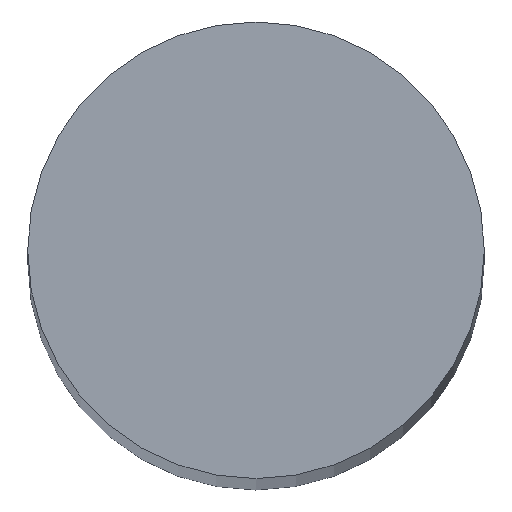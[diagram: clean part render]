
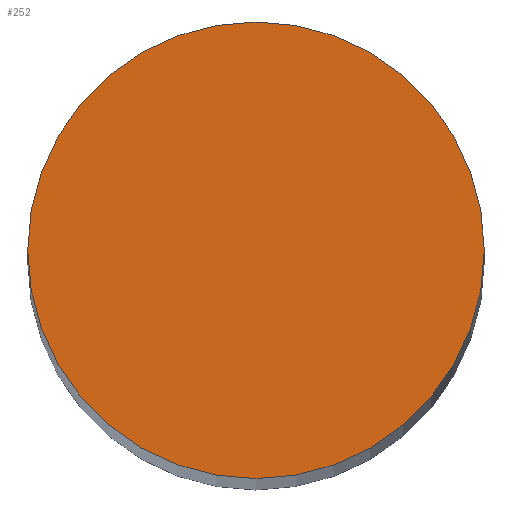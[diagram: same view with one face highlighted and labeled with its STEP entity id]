
A CAD part, top view. The second image highlights one B-rep face of the part: STEP entity #252.
In plain terms, the highlighted planar face has unit normal (0, 0, 1).
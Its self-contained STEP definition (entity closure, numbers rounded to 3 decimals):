
#32 = DIRECTION ( 'NONE',  ( 1., 0., 0. ) ) ;
#68 = CIRCLE ( 'NONE', #231, 7. ) ;
#89 = EDGE_CURVE ( 'NONE', #210, #210, #68, .T. ) ;
#101 = PLANE ( 'NONE',  #119 ) ;
#119 = AXIS2_PLACEMENT_3D ( 'NONE', #302, #327, #273 ) ;
#210 = VERTEX_POINT ( 'NONE', #280 ) ;
#231 = AXIS2_PLACEMENT_3D ( 'NONE', #290, #245, #32 ) ;
#245 = DIRECTION ( 'NONE',  ( 0., 0., 1. ) ) ;
#252 = ADVANCED_FACE ( 'NONE', ( #276 ), #101, .T. ) ;
#257 = ORIENTED_EDGE ( 'NONE', *, *, #89, .T. ) ;
#273 = DIRECTION ( 'NONE',  ( 1., 0., 0. ) ) ;
#276 = FACE_OUTER_BOUND ( 'NONE', #286, .T. ) ;
#280 = CARTESIAN_POINT ( 'NONE',  ( 7., 0., 200. ) ) ;
#286 = EDGE_LOOP ( 'NONE', ( #257 ) ) ;
#290 = CARTESIAN_POINT ( 'NONE',  ( 0., 0., 200. ) ) ;
#302 = CARTESIAN_POINT ( 'NONE',  ( 0., 0., 200. ) ) ;
#327 = DIRECTION ( 'NONE',  ( 0., 0., 1. ) ) ;
